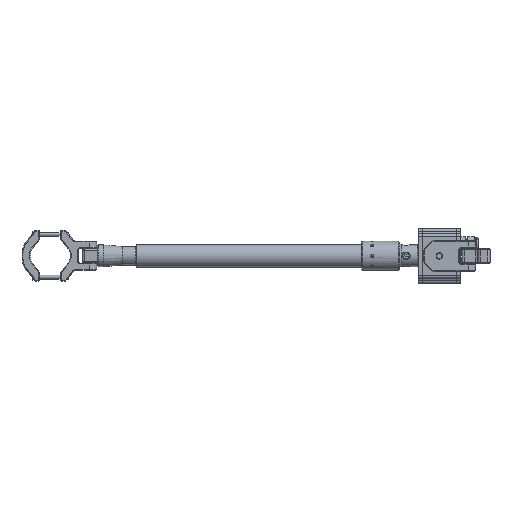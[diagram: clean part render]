
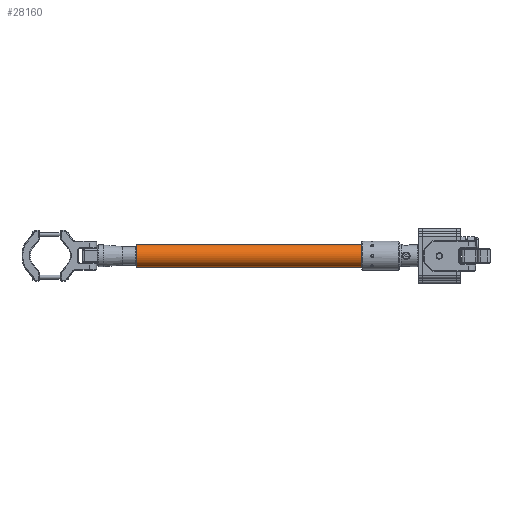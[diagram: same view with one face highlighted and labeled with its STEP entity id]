
A CAD part, front view. The second image highlights one B-rep face of the part: STEP entity #28160.
In plain terms, the highlighted cylindrical face has radius 14 mm (diameter 28 mm), a partial arc.
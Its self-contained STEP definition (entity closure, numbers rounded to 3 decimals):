
#42 = EDGE_CURVE ( 'NONE', #63304, #15335, #1821, .T. ) ;
#334 = CARTESIAN_POINT ( 'NONE',  ( -111.5, -195.736, 9.25 ) ) ;
#1821 = CIRCLE ( 'NONE', #27374, 14. ) ;
#2935 = CYLINDRICAL_SURFACE ( 'NONE', #29801, 14. ) ;
#4865 = VERTEX_POINT ( 'NONE', #50917 ) ;
#9423 = DIRECTION ( 'NONE',  ( 1., 0., 0. ) ) ;
#13969 = CARTESIAN_POINT ( 'NONE',  ( -111.5, -198.005, -4.565 ) ) ;
#15335 = VERTEX_POINT ( 'NONE', #13969 ) ;
#16042 = DIRECTION ( 'NONE',  ( 1., 0., 0. ) ) ;
#16772 = VECTOR ( 'NONE', #9423, 1000. ) ;
#18671 = VERTEX_POINT ( 'NONE', #52440 ) ;
#20296 = EDGE_CURVE ( 'NONE', #18671, #15335, #27326, .T. ) ;
#21714 = CARTESIAN_POINT ( 'NONE',  ( -111.5, -195.736, 9.25 ) ) ;
#24296 = ORIENTED_EDGE ( 'NONE', *, *, #57688, .T. ) ;
#27326 = LINE ( 'NONE', #43359, #16772 ) ;
#27374 = AXIS2_PLACEMENT_3D ( 'NONE', #334, #29036, #68890 ) ;
#28160 = ADVANCED_FACE ( 'NONE', ( #67781 ), #2935, .T. ) ;
#29036 = DIRECTION ( 'NONE',  ( 1., 0., 0. ) ) ;
#29801 = AXIS2_PLACEMENT_3D ( 'NONE', #21714, #16042, #32823 ) ;
#32823 = DIRECTION ( 'NONE',  ( 0., 0.162, 0.987 ) ) ;
#33258 = CARTESIAN_POINT ( 'NONE',  ( -111.5, -193.467, 23.065 ) ) ;
#43359 = CARTESIAN_POINT ( 'NONE',  ( -111.5, -198.005, -4.565 ) ) ;
#45024 = CARTESIAN_POINT ( 'NONE',  ( -431.5, -195.736, 9.25 ) ) ;
#45872 = LINE ( 'NONE', #68537, #52083 ) ;
#50868 = EDGE_LOOP ( 'NONE', ( #24296, #53038, #57378, #66876 ) ) ;
#50917 = CARTESIAN_POINT ( 'NONE',  ( -431.5, -193.467, 23.065 ) ) ;
#50990 = DIRECTION ( 'NONE',  ( 1., 0., 0. ) ) ;
#51243 = DIRECTION ( 'NONE',  ( 0., 0.162, 0.987 ) ) ;
#52083 = VECTOR ( 'NONE', #62812, 1000. ) ;
#52321 = CIRCLE ( 'NONE', #57138, 14. ) ;
#52440 = CARTESIAN_POINT ( 'NONE',  ( -431.5, -198.005, -4.565 ) ) ;
#53038 = ORIENTED_EDGE ( 'NONE', *, *, #20296, .T. ) ;
#57138 = AXIS2_PLACEMENT_3D ( 'NONE', #45024, #50990, #51243 ) ;
#57378 = ORIENTED_EDGE ( 'NONE', *, *, #42, .F. ) ;
#57688 = EDGE_CURVE ( 'NONE', #4865, #18671, #52321, .T. ) ;
#62812 = DIRECTION ( 'NONE',  ( 1., 0., 0. ) ) ;
#63304 = VERTEX_POINT ( 'NONE', #33258 ) ;
#66876 = ORIENTED_EDGE ( 'NONE', *, *, #71653, .F. ) ;
#67781 = FACE_OUTER_BOUND ( 'NONE', #50868, .T. ) ;
#68537 = CARTESIAN_POINT ( 'NONE',  ( -111.5, -193.467, 23.065 ) ) ;
#68890 = DIRECTION ( 'NONE',  ( 0., 0.162, 0.987 ) ) ;
#71653 = EDGE_CURVE ( 'NONE', #4865, #63304, #45872, .T. ) ;
